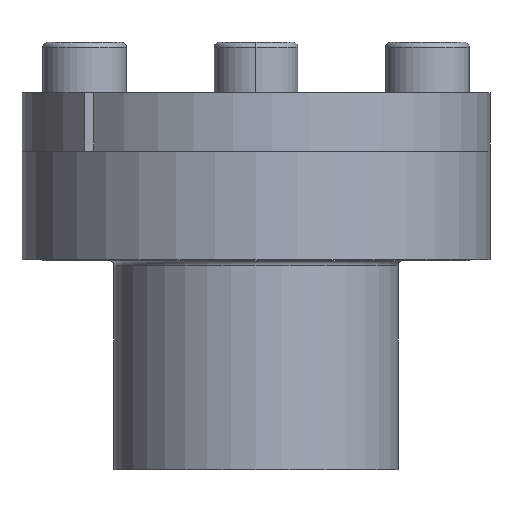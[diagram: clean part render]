
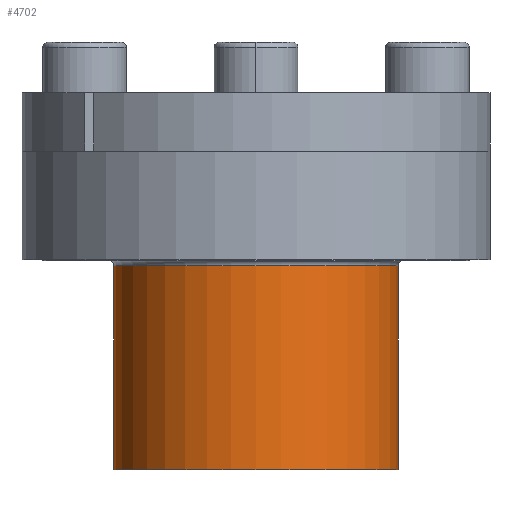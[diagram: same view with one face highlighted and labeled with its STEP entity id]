
A CAD part, front view. The second image highlights one B-rep face of the part: STEP entity #4702.
In plain terms, the highlighted cylindrical face has radius 17 mm (diameter 34 mm), a partial arc.
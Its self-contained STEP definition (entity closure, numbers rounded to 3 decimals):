
#193 = DIRECTION ( 'NONE',  ( -1., 0., 0. ) ) ;
#554 = VECTOR ( 'NONE', #7360, 1000. ) ;
#577 = FACE_OUTER_BOUND ( 'NONE', #3933, .T. ) ;
#612 = CARTESIAN_POINT ( 'NONE',  ( 17., 0., -33. ) ) ;
#798 = CARTESIAN_POINT ( 'NONE',  ( 0., 0., -8. ) ) ;
#969 = CARTESIAN_POINT ( 'NONE',  ( 0., 0., -8.6 ) ) ;
#1159 = LINE ( 'NONE', #6017, #7214 ) ;
#1594 = DIRECTION ( 'NONE',  ( -1., 0., 0. ) ) ;
#1938 = CIRCLE ( 'NONE', #5525, 17. ) ;
#1943 = CARTESIAN_POINT ( 'NONE',  ( -17., 0., -8. ) ) ;
#2060 = DIRECTION ( 'NONE',  ( 0., 0., -1. ) ) ;
#2203 = LINE ( 'NONE', #1943, #554 ) ;
#2556 = AXIS2_PLACEMENT_3D ( 'NONE', #5680, #2060, #6288 ) ;
#2605 = VERTEX_POINT ( 'NONE', #4795 ) ;
#2661 = ORIENTED_EDGE ( 'NONE', *, *, #3004, .F. ) ;
#2978 = EDGE_CURVE ( 'NONE', #7640, #2605, #1938, .T. ) ;
#3004 = EDGE_CURVE ( 'NONE', #3974, #3695, #7041, .T. ) ;
#3054 = AXIS2_PLACEMENT_3D ( 'NONE', #798, #3217, #193 ) ;
#3217 = DIRECTION ( 'NONE',  ( 0., 0., -1. ) ) ;
#3237 = ORIENTED_EDGE ( 'NONE', *, *, #2978, .T. ) ;
#3299 = CARTESIAN_POINT ( 'NONE',  ( 17., 0., -8.6 ) ) ;
#3500 = CARTESIAN_POINT ( 'NONE',  ( -17., 0., -33. ) ) ;
#3626 = DIRECTION ( 'NONE',  ( 0., 0., -1. ) ) ;
#3695 = VERTEX_POINT ( 'NONE', #3500 ) ;
#3933 = EDGE_LOOP ( 'NONE', ( #6871, #3237, #5236, #2661 ) ) ;
#3974 = VERTEX_POINT ( 'NONE', #612 ) ;
#4463 = EDGE_CURVE ( 'NONE', #7640, #3974, #1159, .T. ) ;
#4702 = ADVANCED_FACE ( 'NONE', ( #577 ), #6278, .T. ) ;
#4795 = CARTESIAN_POINT ( 'NONE',  ( -17., 0., -8.6 ) ) ;
#5007 = EDGE_CURVE ( 'NONE', #2605, #3695, #2203, .T. ) ;
#5215 = DIRECTION ( 'NONE',  ( 0., 0., -1. ) ) ;
#5236 = ORIENTED_EDGE ( 'NONE', *, *, #5007, .T. ) ;
#5525 = AXIS2_PLACEMENT_3D ( 'NONE', #969, #5215, #1594 ) ;
#5680 = CARTESIAN_POINT ( 'NONE',  ( 0., 0., -33. ) ) ;
#6017 = CARTESIAN_POINT ( 'NONE',  ( 17., 0., -8. ) ) ;
#6278 = CYLINDRICAL_SURFACE ( 'NONE', #3054, 17. ) ;
#6288 = DIRECTION ( 'NONE',  ( -1., 0., 0. ) ) ;
#6871 = ORIENTED_EDGE ( 'NONE', *, *, #4463, .F. ) ;
#7041 = CIRCLE ( 'NONE', #2556, 17. ) ;
#7214 = VECTOR ( 'NONE', #3626, 1000. ) ;
#7360 = DIRECTION ( 'NONE',  ( 0., 0., -1. ) ) ;
#7640 = VERTEX_POINT ( 'NONE', #3299 ) ;
